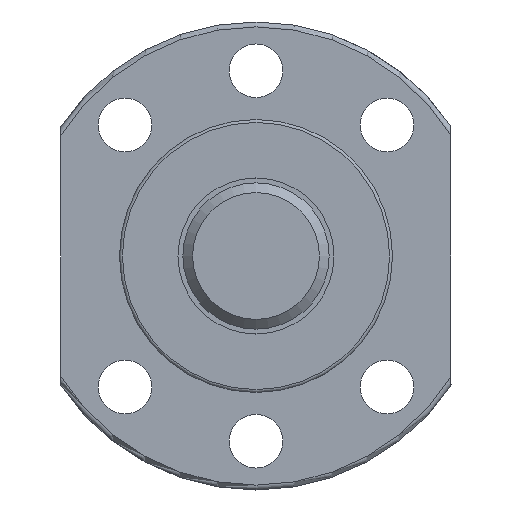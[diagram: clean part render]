
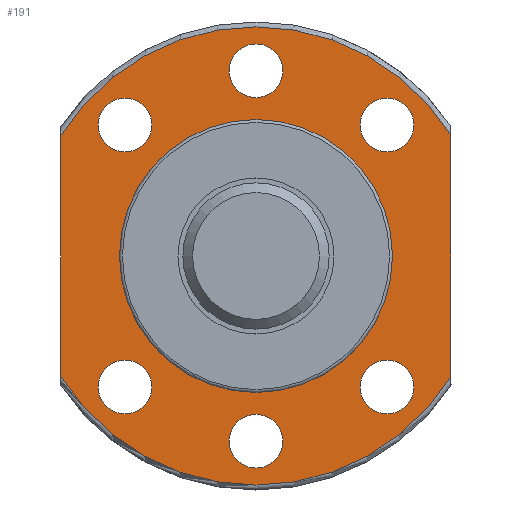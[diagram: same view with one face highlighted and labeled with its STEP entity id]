
A CAD part, left-side view. The second image highlights one B-rep face of the part: STEP entity #191.
In plain terms, the highlighted planar face has unit normal (-1, 0, 0).
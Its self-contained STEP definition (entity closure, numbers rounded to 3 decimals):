
#103=PLANE('',#566);
#113=FACE_BOUND('',#249,.T.);
#114=FACE_BOUND('',#250,.T.);
#115=FACE_BOUND('',#251,.T.);
#116=FACE_BOUND('',#252,.T.);
#117=FACE_BOUND('',#253,.T.);
#118=FACE_BOUND('',#254,.T.);
#119=FACE_BOUND('',#255,.T.);
#174=LINE('',#872,#182);
#175=LINE('',#874,#183);
#182=VECTOR('',#638,1.);
#183=VECTOR('',#639,1.);
#191=ADVANCED_FACE('',(#230,#113,#114,#115,#116,#117,#118,#119),#103,.T.);
#230=FACE_OUTER_BOUND('',#248,.T.);
#248=EDGE_LOOP('',(#329,#330,#331,#332));
#249=EDGE_LOOP('',(#333));
#250=EDGE_LOOP('',(#334));
#251=EDGE_LOOP('',(#335));
#252=EDGE_LOOP('',(#336));
#253=EDGE_LOOP('',(#337));
#254=EDGE_LOOP('',(#338));
#255=EDGE_LOOP('',(#339));
#329=ORIENTED_EDGE('',*,*,#474,.F.);
#330=ORIENTED_EDGE('',*,*,#462,.T.);
#331=ORIENTED_EDGE('',*,*,#475,.T.);
#332=ORIENTED_EDGE('',*,*,#476,.T.);
#333=ORIENTED_EDGE('',*,*,#477,.F.);
#334=ORIENTED_EDGE('',*,*,#478,.F.);
#335=ORIENTED_EDGE('',*,*,#479,.F.);
#336=ORIENTED_EDGE('',*,*,#480,.F.);
#337=ORIENTED_EDGE('',*,*,#481,.F.);
#338=ORIENTED_EDGE('',*,*,#482,.F.);
#339=ORIENTED_EDGE('',*,*,#483,.F.);
#419=VERTEX_POINT('',#762);
#420=VERTEX_POINT('',#763);
#431=VERTEX_POINT('',#873);
#432=VERTEX_POINT('',#875);
#433=VERTEX_POINT('',#878);
#434=VERTEX_POINT('',#880);
#435=VERTEX_POINT('',#882);
#436=VERTEX_POINT('',#884);
#437=VERTEX_POINT('',#886);
#438=VERTEX_POINT('',#888);
#439=VERTEX_POINT('',#890);
#462=EDGE_CURVE('',#419,#420,#513,.T.);
#474=EDGE_CURVE('',#419,#431,#174,.T.);
#475=EDGE_CURVE('',#420,#432,#175,.T.);
#476=EDGE_CURVE('',#432,#431,#519,.T.);
#477=EDGE_CURVE('',#433,#433,#520,.T.);
#478=EDGE_CURVE('',#434,#434,#521,.T.);
#479=EDGE_CURVE('',#435,#435,#522,.T.);
#480=EDGE_CURVE('',#436,#436,#523,.T.);
#481=EDGE_CURVE('',#437,#437,#524,.T.);
#482=EDGE_CURVE('',#438,#438,#525,.T.);
#483=EDGE_CURVE('',#439,#439,#526,.T.);
#513=CIRCLE('',#549,23.5);
#519=CIRCLE('',#558,23.5);
#520=CIRCLE('',#559,14.);
#521=CIRCLE('',#560,2.75);
#522=CIRCLE('',#561,2.75);
#523=CIRCLE('',#562,2.75);
#524=CIRCLE('',#563,2.75);
#525=CIRCLE('',#564,2.75);
#526=CIRCLE('',#565,2.75);
#549=AXIS2_PLACEMENT_3D('',#761,#618,#619);
#558=AXIS2_PLACEMENT_3D('',#876,#640,#641);
#559=AXIS2_PLACEMENT_3D('',#877,#642,#643);
#560=AXIS2_PLACEMENT_3D('',#879,#644,#645);
#561=AXIS2_PLACEMENT_3D('',#881,#646,#647);
#562=AXIS2_PLACEMENT_3D('',#883,#648,#649);
#563=AXIS2_PLACEMENT_3D('',#885,#650,#651);
#564=AXIS2_PLACEMENT_3D('',#887,#652,#653);
#565=AXIS2_PLACEMENT_3D('',#889,#654,#655);
#566=AXIS2_PLACEMENT_3D('',#891,#656,#657);
#618=DIRECTION('',(-1.,0.,0.));
#619=DIRECTION('',(0.,-1.,0.));
#638=DIRECTION('',(0.,0.,1.));
#639=DIRECTION('',(0.,0.,1.));
#640=DIRECTION('',(-1.,0.,0.));
#641=DIRECTION('',(0.,-1.,0.));
#642=DIRECTION('',(-1.,0.,0.));
#643=DIRECTION('',(0.,-1.,0.));
#644=DIRECTION('',(-1.,0.,0.));
#645=DIRECTION('',(0.,-1.,0.));
#646=DIRECTION('',(-1.,0.,0.));
#647=DIRECTION('',(0.,-1.,0.));
#648=DIRECTION('',(-1.,0.,0.));
#649=DIRECTION('',(0.,-1.,0.));
#650=DIRECTION('',(-1.,0.,0.));
#651=DIRECTION('',(0.,-1.,0.));
#652=DIRECTION('',(-1.,0.,0.));
#653=DIRECTION('',(0.,-1.,0.));
#654=DIRECTION('',(-1.,0.,0.));
#655=DIRECTION('',(0.,-1.,0.));
#656=DIRECTION('',(-1.,0.,0.));
#657=DIRECTION('',(0.,-1.,0.));
#761=CARTESIAN_POINT('',(-25.,0.,0.));
#762=CARTESIAN_POINT('',(-25.,20.,-12.339));
#763=CARTESIAN_POINT('',(-25.,-20.,-12.339));
#872=CARTESIAN_POINT('',(-25.,20.,0.));
#873=CARTESIAN_POINT('',(-25.,20.,12.339));
#874=CARTESIAN_POINT('',(-25.,-20.,0.));
#875=CARTESIAN_POINT('',(-25.,-20.,12.339));
#876=CARTESIAN_POINT('',(-25.,0.,0.));
#877=CARTESIAN_POINT('',(-25.,0.,0.));
#878=CARTESIAN_POINT('',(-25.,-14.,0.));
#879=CARTESIAN_POINT('',(-25.,13.435,13.435));
#880=CARTESIAN_POINT('',(-25.,10.685,13.435));
#881=CARTESIAN_POINT('',(-25.,-13.435,13.435));
#882=CARTESIAN_POINT('',(-25.,-16.185,13.435));
#883=CARTESIAN_POINT('',(-25.,-13.435,-13.435));
#884=CARTESIAN_POINT('',(-25.,-16.185,-13.435));
#885=CARTESIAN_POINT('',(-25.,13.435,-13.435));
#886=CARTESIAN_POINT('',(-25.,10.685,-13.435));
#887=CARTESIAN_POINT('',(-25.,0.,19.));
#888=CARTESIAN_POINT('',(-25.,-2.75,19.));
#889=CARTESIAN_POINT('',(-25.,0.,-19.));
#890=CARTESIAN_POINT('',(-25.,-2.75,-19.));
#891=CARTESIAN_POINT('',(-25.,18.75,0.));
